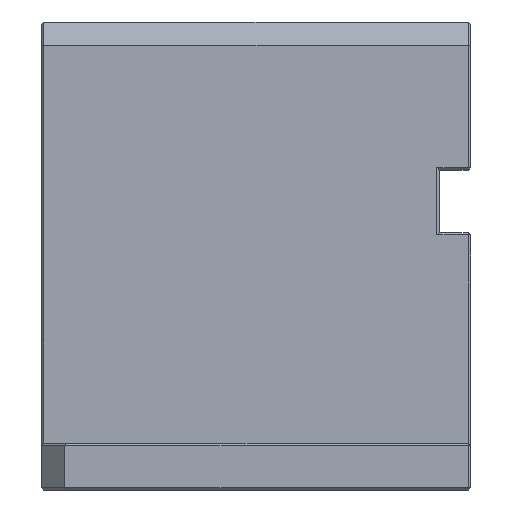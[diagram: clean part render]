
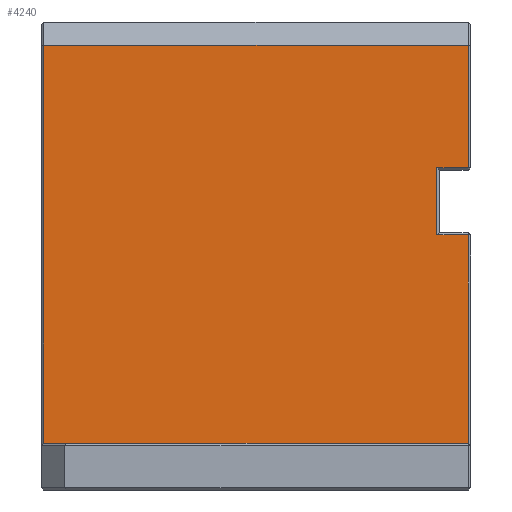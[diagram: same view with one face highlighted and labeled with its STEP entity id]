
A CAD part, left-side view. The second image highlights one B-rep face of the part: STEP entity #4240.
In plain terms, the highlighted planar face has unit normal (-1, 0, 0).
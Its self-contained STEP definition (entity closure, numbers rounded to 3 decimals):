
#45 = VECTOR ( 'NONE', #433, 1000. ) ;
#178 = LINE ( 'NONE', #2903, #1878 ) ;
#224 = DIRECTION ( 'NONE',  ( 0., 0., -1. ) ) ;
#240 = ORIENTED_EDGE ( 'NONE', *, *, #3224, .T. ) ;
#257 = LINE ( 'NONE', #3200, #3737 ) ;
#433 = DIRECTION ( 'NONE',  ( 0., 0., 1. ) ) ;
#453 = LINE ( 'NONE', #1113, #3305 ) ;
#569 = EDGE_CURVE ( 'NONE', #4314, #1315, #2415, .T. ) ;
#637 = EDGE_CURVE ( 'NONE', #737, #1453, #178, .T. ) ;
#737 = VERTEX_POINT ( 'NONE', #863 ) ;
#774 = EDGE_CURVE ( 'NONE', #943, #2534, #4358, .T. ) ;
#863 = CARTESIAN_POINT ( 'NONE',  ( -20., -23.2, 32.7 ) ) ;
#864 = DIRECTION ( 'NONE',  ( 0., 0., -1. ) ) ;
#943 = VERTEX_POINT ( 'NONE', #4382 ) ;
#1084 = ORIENTED_EDGE ( 'NONE', *, *, #774, .T. ) ;
#1113 = CARTESIAN_POINT ( 'NONE',  ( -20., -27.5, 6. ) ) ;
#1179 = EDGE_CURVE ( 'NONE', #3963, #4043, #3796, .T. ) ;
#1272 = DIRECTION ( 'NONE',  ( 0., 1., 0. ) ) ;
#1283 = ORIENTED_EDGE ( 'NONE', *, *, #2290, .T. ) ;
#1315 = VERTEX_POINT ( 'NONE', #1553 ) ;
#1453 = VERTEX_POINT ( 'NONE', #3680 ) ;
#1489 = ORIENTED_EDGE ( 'NONE', *, *, #569, .T. ) ;
#1546 = FACE_OUTER_BOUND ( 'NONE', #2586, .T. ) ;
#1553 = CARTESIAN_POINT ( 'NONE',  ( -20., -27.2, 32.7 ) ) ;
#1625 = LINE ( 'NONE', #4059, #3381 ) ;
#1679 = VECTOR ( 'NONE', #1272, 1000. ) ;
#1700 = CARTESIAN_POINT ( 'NONE',  ( -20., -27.2, 57. ) ) ;
#1716 = ORIENTED_EDGE ( 'NONE', *, *, #637, .T. ) ;
#1878 = VECTOR ( 'NONE', #3499, 1000. ) ;
#2194 = ORIENTED_EDGE ( 'NONE', *, *, #3073, .T. ) ;
#2290 = EDGE_CURVE ( 'NONE', #2534, #4314, #453, .T. ) ;
#2415 = LINE ( 'NONE', #3098, #2938 ) ;
#2473 = DIRECTION ( 'NONE',  ( 0., -1., 0. ) ) ;
#2483 = ORIENTED_EDGE ( 'NONE', *, *, #3036, .T. ) ;
#2534 = VERTEX_POINT ( 'NONE', #3770 ) ;
#2556 = CARTESIAN_POINT ( 'NONE',  ( -20., -27.5, 60. ) ) ;
#2586 = EDGE_LOOP ( 'NONE', ( #1283, #1489, #240, #1716, #2483, #3728, #2194, #1084 ) ) ;
#2759 = CARTESIAN_POINT ( 'NONE',  ( -20., -27.2, 60. ) ) ;
#2903 = CARTESIAN_POINT ( 'NONE',  ( -20., -23.2, 41. ) ) ;
#2904 = PLANE ( 'NONE',  #3818 ) ;
#2938 = VECTOR ( 'NONE', #3459, 1000. ) ;
#3004 = CARTESIAN_POINT ( 'NONE',  ( -20., 27.2, 60. ) ) ;
#3011 = CARTESIAN_POINT ( 'NONE',  ( -20., -27.2, 41.3 ) ) ;
#3036 = EDGE_CURVE ( 'NONE', #1453, #3963, #257, .T. ) ;
#3064 = DIRECTION ( 'NONE',  ( 0., 1., 0. ) ) ;
#3065 = CARTESIAN_POINT ( 'NONE',  ( -20., -27.2, 6. ) ) ;
#3073 = EDGE_CURVE ( 'NONE', #4043, #943, #3893, .T. ) ;
#3098 = CARTESIAN_POINT ( 'NONE',  ( -20., -27.2, 60. ) ) ;
#3200 = CARTESIAN_POINT ( 'NONE',  ( -20., -27.5, 41.3 ) ) ;
#3224 = EDGE_CURVE ( 'NONE', #1315, #737, #1625, .T. ) ;
#3305 = VECTOR ( 'NONE', #2473, 1000. ) ;
#3381 = VECTOR ( 'NONE', #3064, 1000. ) ;
#3459 = DIRECTION ( 'NONE',  ( 0., 0., 1. ) ) ;
#3499 = DIRECTION ( 'NONE',  ( 0., 0., 1. ) ) ;
#3625 = DIRECTION ( 'NONE',  ( 0., -1., 0. ) ) ;
#3680 = CARTESIAN_POINT ( 'NONE',  ( -20., -23.2, 41.3 ) ) ;
#3728 = ORIENTED_EDGE ( 'NONE', *, *, #1179, .T. ) ;
#3737 = VECTOR ( 'NONE', #3625, 1000. ) ;
#3770 = CARTESIAN_POINT ( 'NONE',  ( -20., 27.2, 6. ) ) ;
#3796 = LINE ( 'NONE', #2759, #45 ) ;
#3818 = AXIS2_PLACEMENT_3D ( 'NONE', #2556, #3878, #864 ) ;
#3878 = DIRECTION ( 'NONE',  ( 1., 0., 0. ) ) ;
#3893 = LINE ( 'NONE', #4312, #1679 ) ;
#3963 = VERTEX_POINT ( 'NONE', #3011 ) ;
#4002 = VECTOR ( 'NONE', #224, 1000. ) ;
#4043 = VERTEX_POINT ( 'NONE', #1700 ) ;
#4059 = CARTESIAN_POINT ( 'NONE',  ( -20., -27.5, 32.7 ) ) ;
#4240 = ADVANCED_FACE ( 'NONE', ( #1546 ), #2904, .F. ) ;
#4312 = CARTESIAN_POINT ( 'NONE',  ( -20., 27.5, 57. ) ) ;
#4314 = VERTEX_POINT ( 'NONE', #3065 ) ;
#4358 = LINE ( 'NONE', #3004, #4002 ) ;
#4382 = CARTESIAN_POINT ( 'NONE',  ( -20., 27.2, 57. ) ) ;
